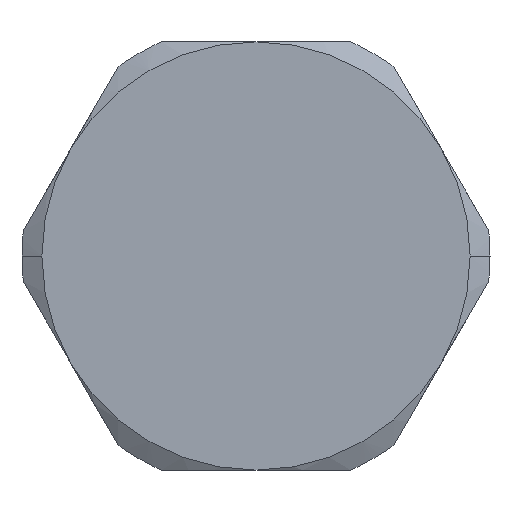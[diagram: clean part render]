
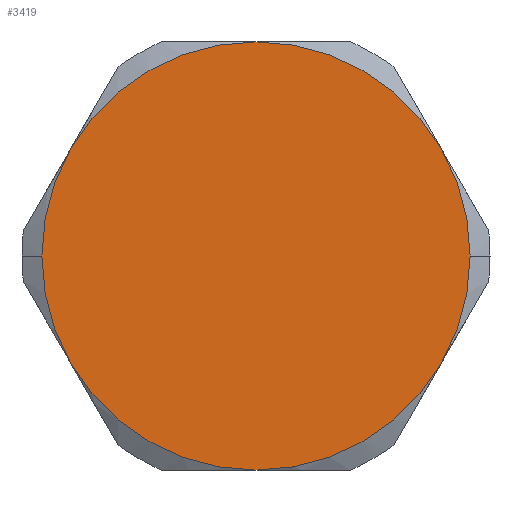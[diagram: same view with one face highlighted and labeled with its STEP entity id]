
A CAD part, left-side view. The second image highlights one B-rep face of the part: STEP entity #3419.
In plain terms, the highlighted planar face has unit normal (-1, 0, 0).
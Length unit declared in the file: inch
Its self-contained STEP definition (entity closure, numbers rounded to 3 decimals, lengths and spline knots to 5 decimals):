
#523=CARTESIAN_POINT('',(0.,-0.5,0.75));
#524=VERTEX_POINT('',#523);
#540=CARTESIAN_POINT('',(0.,-0.43301,1.0));
#541=VERTEX_POINT('',#540);
#555=CARTESIAN_POINT('',(0.0,0.0,0.75));
#556=DIRECTION('',(-1.0,0.0,0.0));
#557=DIRECTION('',(0.0,-1.0,0.0));
#558=AXIS2_PLACEMENT_3D('',#555,#556,#557);
#559=CIRCLE('',#558,0.5);
#560=EDGE_CURVE('',#524,#541,#559,.T.);
#570=CARTESIAN_POINT('',(0.,0.5,0.75));
#571=VERTEX_POINT('',#570);
#578=CARTESIAN_POINT('',(0.,0.43301,1.0));
#579=VERTEX_POINT('',#578);
#580=CARTESIAN_POINT('',(0.0,0.0,0.75));
#581=DIRECTION('',(-1.0,0.0,0.0));
#582=DIRECTION('',(0.0,-1.0,0.0));
#583=AXIS2_PLACEMENT_3D('',#580,#581,#582);
#584=CIRCLE('',#583,0.5);
#585=EDGE_CURVE('',#579,#571,#584,.T.);
#2653=CARTESIAN_POINT('',(0.,0.43301,0.5));
#2654=VERTEX_POINT('',#2653);
#2668=CARTESIAN_POINT('',(0.0,0.0,0.75));
#2669=DIRECTION('',(-1.0,0.0,0.0));
#2670=DIRECTION('',(0.0,-1.0,0.0));
#2671=AXIS2_PLACEMENT_3D('',#2668,#2669,#2670);
#2672=CIRCLE('',#2671,0.5);
#2673=EDGE_CURVE('',#571,#2654,#2672,.T.);
#2683=CARTESIAN_POINT('',(0.,0.,1.25));
#2684=VERTEX_POINT('',#2683);
#2721=CARTESIAN_POINT('',(0.0,0.0,0.75));
#2722=DIRECTION('',(-1.0,0.0,0.0));
#2723=DIRECTION('',(0.0,-1.0,0.0));
#2724=AXIS2_PLACEMENT_3D('',#2721,#2722,#2723);
#2725=CIRCLE('',#2724,0.5);
#2726=EDGE_CURVE('',#2684,#579,#2725,.T.);
#2772=CARTESIAN_POINT('',(0.0,0.0,0.75));
#2773=DIRECTION('',(-1.0,0.0,0.0));
#2774=DIRECTION('',(0.0,-1.0,0.0));
#2775=AXIS2_PLACEMENT_3D('',#2772,#2773,#2774);
#2776=CIRCLE('',#2775,0.5);
#2777=EDGE_CURVE('',#541,#2684,#2776,.T.);
#2788=CARTESIAN_POINT('',(0.,-0.43301,0.5));
#2789=VERTEX_POINT('',#2788);
#2790=CARTESIAN_POINT('',(0.0,0.0,0.75));
#2791=DIRECTION('',(-1.0,0.0,0.0));
#2792=DIRECTION('',(0.0,-1.0,0.0));
#2793=AXIS2_PLACEMENT_3D('',#2790,#2791,#2792);
#2794=CIRCLE('',#2793,0.5);
#2795=EDGE_CURVE('',#2789,#524,#2794,.T.);
#2834=CARTESIAN_POINT('',(0.,0.,0.25));
#2835=VERTEX_POINT('',#2834);
#2836=CARTESIAN_POINT('',(0.0,0.0,0.75));
#2837=DIRECTION('',(-1.0,0.0,0.0));
#2838=DIRECTION('',(0.0,-1.0,0.0));
#2839=AXIS2_PLACEMENT_3D('',#2836,#2837,#2838);
#2840=CIRCLE('',#2839,0.5);
#2841=EDGE_CURVE('',#2835,#2789,#2840,.T.);
#2887=CARTESIAN_POINT('',(0.0,0.0,0.75));
#2888=DIRECTION('',(-1.0,0.0,0.0));
#2889=DIRECTION('',(0.0,-1.0,0.0));
#2890=AXIS2_PLACEMENT_3D('',#2887,#2888,#2889);
#2891=CIRCLE('',#2890,0.5);
#2892=EDGE_CURVE('',#2654,#2835,#2891,.T.);
#3404=CARTESIAN_POINT('',(0.,0.,0.75));
#3405=DIRECTION('',(1.0,0.0,0.0));
#3406=DIRECTION('',(0.0,0.0,1.0));
#3407=AXIS2_PLACEMENT_3D('',#3404,#3405,#3406);
#3408=PLANE('',#3407);
#3409=ORIENTED_EDGE('',*,*,#2892,.T.);
#3410=ORIENTED_EDGE('',*,*,#2841,.T.);
#3411=ORIENTED_EDGE('',*,*,#2795,.T.);
#3412=ORIENTED_EDGE('',*,*,#560,.T.);
#3413=ORIENTED_EDGE('',*,*,#2777,.T.);
#3414=ORIENTED_EDGE('',*,*,#2726,.T.);
#3415=ORIENTED_EDGE('',*,*,#585,.T.);
#3416=ORIENTED_EDGE('',*,*,#2673,.T.);
#3417=EDGE_LOOP('',(#3409,#3410,#3411,#3412,#3413,#3414,#3415,#3416));
#3418=FACE_OUTER_BOUND('',#3417,.T.);
#3419=ADVANCED_FACE('',(#3418),#3408,.F.);
